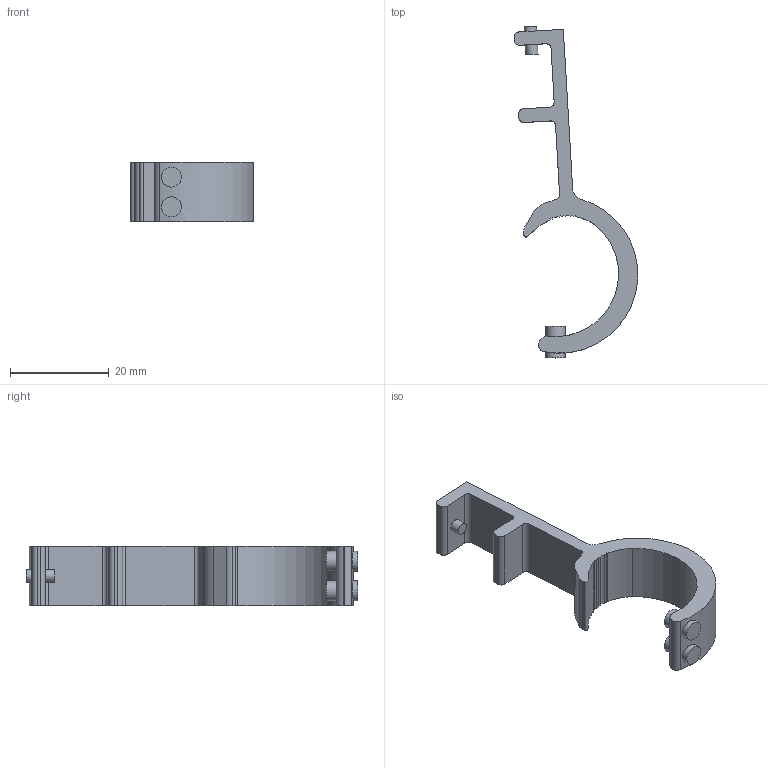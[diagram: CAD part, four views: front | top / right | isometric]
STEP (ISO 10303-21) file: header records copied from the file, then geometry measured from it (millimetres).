
FILE_DESCRIPTION( ( 'STEP AP214' ), '1' );
FILE_NAME( 'C:/Users/emc02044/Desktop/气缸辅件/PM-20.stp', '2026-08-20T06:17:06', ( 'License CC BY-ND 4.0' ), ( 'CADENAS' ), ' ', 'PARTsolutions', ' ' );
FILE_SCHEMA( ( 'AUTOMOTIVE_DESIGN { 1 0 10303 214 1 1 1 1 }' ) );
Length unit declared in the file: millimetre
Products named in the file (1): _PM-20
Bounding box: 25.03 x 67.34 x 12 mm (x, y, z)
Volume: 4132.7 mm3; surface area: 3343.4 mm2
Topology: 1 solids, 1 shells, 63 faces, 174 edges, 116 vertices
Faces by surface type: plane 38, cylinder 24, cone 1
Full cylindrical faces by diameter (mm): 2.5 x2, 4 x4
Entity records: 2653 total; most frequent: CARTESIAN_POINT 540, DIRECTION 329, ORIENTED_EDGE 326, EDGE_CURVE 163, VERTEX_POINT 113, LINE 113, VECTOR 113, AXIS2_PLACEMENT_3D 108
